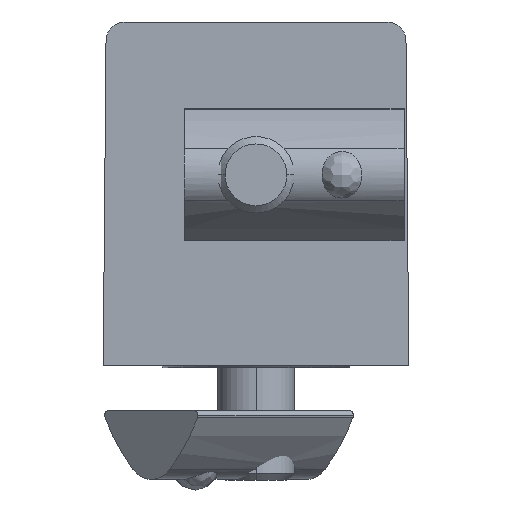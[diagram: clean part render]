
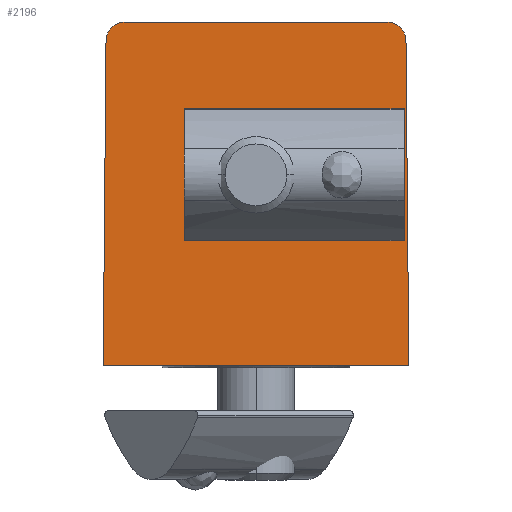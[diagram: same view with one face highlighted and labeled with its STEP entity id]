
A CAD part, front view. The second image highlights one B-rep face of the part: STEP entity #2196.
In plain terms, the highlighted planar face has unit normal (0, -1, 0) as drawn and (1, 0, 0) by its records, which use the part's own axes.
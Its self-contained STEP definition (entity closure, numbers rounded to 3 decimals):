
#122 = VERTEX_POINT ( 'NONE', #588 ) ;
#176 = ORIENTED_EDGE ( 'NONE', *, *, #2131, .F. ) ;
#227 = AXIS2_PLACEMENT_3D ( 'NONE', #3456, #3257, #1011 ) ;
#247 = VERTEX_POINT ( 'NONE', #2237 ) ;
#381 = AXIS2_PLACEMENT_3D ( 'NONE', #656, #2299, #417 ) ;
#417 = DIRECTION ( 'NONE',  ( 0., 0., 1. ) ) ;
#588 = CARTESIAN_POINT ( 'NONE',  ( -25.756, -33.382, -18. ) ) ;
#631 = CARTESIAN_POINT ( 'NONE',  ( -25.756, -17.382, 2. ) ) ;
#639 = CARTESIAN_POINT ( 'NONE',  ( -25.756, -33.382, -18. ) ) ;
#656 = CARTESIAN_POINT ( 'NONE',  ( -25.756, -31.085, 16. ) ) ;
#718 = LINE ( 'NONE', #639, #1368 ) ;
#816 = LINE ( 'NONE', #2681, #1543 ) ;
#900 = AXIS2_PLACEMENT_3D ( 'NONE', #631, #2879, #1887 ) ;
#1011 = DIRECTION ( 'NONE',  ( 0., -1., 0. ) ) ;
#1124 = CARTESIAN_POINT ( 'NONE',  ( -25.756, -31.085, 18. ) ) ;
#1170 = DIRECTION ( 'NONE',  ( 1., 0., 0. ) ) ;
#1289 = ORIENTED_EDGE ( 'NONE', *, *, #1828, .F. ) ;
#1291 = EDGE_CURVE ( 'NONE', #2092, #247, #4039, .T. ) ;
#1368 = VECTOR ( 'NONE', #1619, 1000. ) ;
#1543 = VECTOR ( 'NONE', #2527, 1000. ) ;
#1585 = EDGE_LOOP ( 'NONE', ( #2924, #176, #3511, #4059, #1289, #2408 ) ) ;
#1589 = DIRECTION ( 'NONE',  ( 0., -1., 0. ) ) ;
#1619 = DIRECTION ( 'NONE',  ( 0., 0.009, 1. ) ) ;
#1724 = EDGE_CURVE ( 'NONE', #3338, #2723, #3275, .T. ) ;
#1733 = VERTEX_POINT ( 'NONE', #1124 ) ;
#1817 = CARTESIAN_POINT ( 'NONE',  ( -25.756, -3.679, 16. ) ) ;
#1828 = EDGE_CURVE ( 'NONE', #2723, #122, #4085, .T. ) ;
#1887 = DIRECTION ( 'NONE',  ( 0., 0., 1. ) ) ;
#1914 = CARTESIAN_POINT ( 'NONE',  ( -25.756, -1.382, -18. ) ) ;
#1929 = CIRCLE ( 'NONE', #381, 2. ) ;
#2026 = CIRCLE ( 'NONE', #2817, 2. ) ;
#2027 = EDGE_CURVE ( 'NONE', #3586, #1733, #1929, .T. ) ;
#2040 = PLANE ( 'NONE',  #227 ) ;
#2092 = VERTEX_POINT ( 'NONE', #2972 ) ;
#2127 = DIRECTION ( 'NONE',  ( 0., 0., -1. ) ) ;
#2131 = EDGE_CURVE ( 'NONE', #1733, #2458, #816, .T. ) ;
#2196 = ADVANCED_FACE ( 'NONE', ( #2585, #3921 ), #2040, .F. ) ;
#2237 = CARTESIAN_POINT ( 'NONE',  ( -25.756, -17.382, -2.5 ) ) ;
#2299 = DIRECTION ( 'NONE',  ( -1., 0., 0. ) ) ;
#2350 = VECTOR ( 'NONE', #3714, 1000. ) ;
#2386 = EDGE_CURVE ( 'NONE', #122, #3586, #718, .T. ) ;
#2408 = ORIENTED_EDGE ( 'NONE', *, *, #1724, .F. ) ;
#2458 = VERTEX_POINT ( 'NONE', #4022 ) ;
#2527 = DIRECTION ( 'NONE',  ( 0., 1., 0. ) ) ;
#2585 = FACE_BOUND ( 'NONE', #4037, .T. ) ;
#2681 = CARTESIAN_POINT ( 'NONE',  ( -25.756, -1.382, 18. ) ) ;
#2723 = VERTEX_POINT ( 'NONE', #1914 ) ;
#2732 = AXIS2_PLACEMENT_3D ( 'NONE', #3093, #1170, #3412 ) ;
#2817 = AXIS2_PLACEMENT_3D ( 'NONE', #1817, #4156, #2127 ) ;
#2854 = CARTESIAN_POINT ( 'NONE',  ( -25.756, -1.679, 16.017 ) ) ;
#2879 = DIRECTION ( 'NONE',  ( 1., 0., 0. ) ) ;
#2924 = ORIENTED_EDGE ( 'NONE', *, *, #3692, .F. ) ;
#2972 = CARTESIAN_POINT ( 'NONE',  ( -25.756, -17.382, 6.5 ) ) ;
#3032 = VECTOR ( 'NONE', #1589, 1000. ) ;
#3093 = CARTESIAN_POINT ( 'NONE',  ( -25.756, -17.382, 2. ) ) ;
#3101 = EDGE_CURVE ( 'NONE', #247, #2092, #3410, .T. ) ;
#3257 = DIRECTION ( 'NONE',  ( -1., 0., 0. ) ) ;
#3275 = LINE ( 'NONE', #3373, #2350 ) ;
#3333 = ORIENTED_EDGE ( 'NONE', *, *, #1291, .F. ) ;
#3338 = VERTEX_POINT ( 'NONE', #2854 ) ;
#3373 = CARTESIAN_POINT ( 'NONE',  ( -25.756, -1.679, 16.017 ) ) ;
#3410 = CIRCLE ( 'NONE', #2732, 4.5 ) ;
#3412 = DIRECTION ( 'NONE',  ( 0., 0., 1. ) ) ;
#3456 = CARTESIAN_POINT ( 'NONE',  ( -25.756, -1.382, 18. ) ) ;
#3511 = ORIENTED_EDGE ( 'NONE', *, *, #2027, .F. ) ;
#3574 = ORIENTED_EDGE ( 'NONE', *, *, #3101, .F. ) ;
#3586 = VERTEX_POINT ( 'NONE', #3635 ) ;
#3587 = CARTESIAN_POINT ( 'NONE',  ( -25.756, -1.382, -18. ) ) ;
#3635 = CARTESIAN_POINT ( 'NONE',  ( -25.756, -33.085, 16.017 ) ) ;
#3692 = EDGE_CURVE ( 'NONE', #2458, #3338, #2026, .T. ) ;
#3714 = DIRECTION ( 'NONE',  ( 0., 0.009, -1. ) ) ;
#3921 = FACE_OUTER_BOUND ( 'NONE', #1585, .T. ) ;
#4022 = CARTESIAN_POINT ( 'NONE',  ( -25.756, -3.679, 18. ) ) ;
#4037 = EDGE_LOOP ( 'NONE', ( #3333, #3574 ) ) ;
#4039 = CIRCLE ( 'NONE', #900, 4.5 ) ;
#4059 = ORIENTED_EDGE ( 'NONE', *, *, #2386, .F. ) ;
#4085 = LINE ( 'NONE', #3587, #3032 ) ;
#4156 = DIRECTION ( 'NONE',  ( -1., 0., 0. ) ) ;
